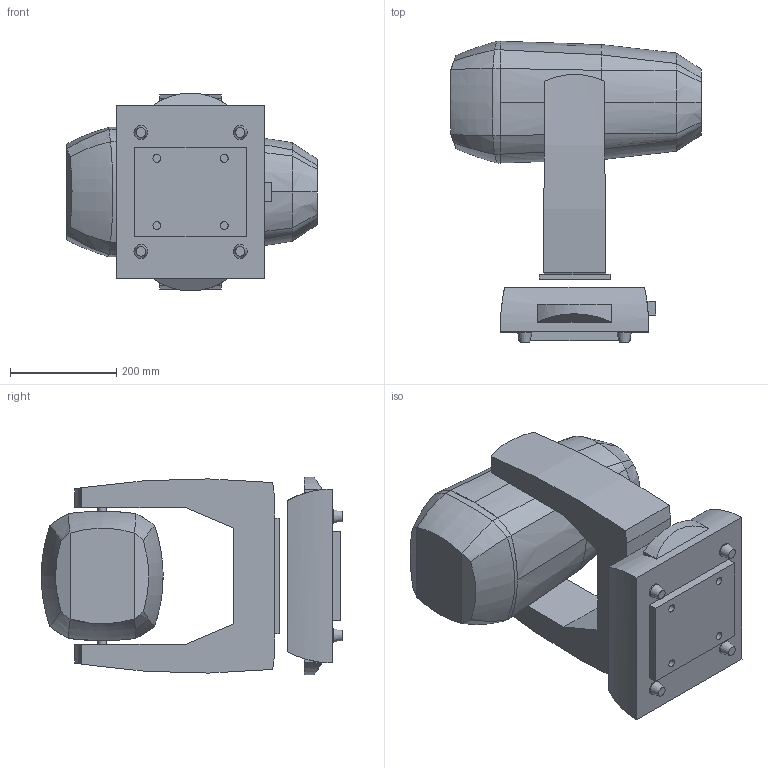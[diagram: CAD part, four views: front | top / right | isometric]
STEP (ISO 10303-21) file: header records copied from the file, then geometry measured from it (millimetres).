
FILE_DESCRIPTION(/* description */ (''),/* implementation_level */ '2;1');
FILE_NAME(/* name */ 'D:/dgooch/Documents/CADENG/PRO/Rogue Outcast 1 Hybrid/90/3D/Rogue Outcast 1 Hybrid_90.step',/* time_stamp */ '2020-01-27T09:30:11-05:00',/* author */ (''),/* organization */ (''),/* preprocessor_version */ 'ST-DEVELOPER v18',/* originating_system */ 'Autodesk Translation Framework v8.12.0.6',/* authorisation */ '');
FILE_SCHEMA (('AUTOMOTIVE_DESIGN { 1 0 10303 214 3 1 1 }'));
Length unit declared in the file: millimetre
Products named in the file (4): Rogue Outcast 1 Hybrid-20200117; Head (1); Base (1); Arm (1)
Assembly tree (3 placements, depth 2):
  Rogue Outcast 1 Hybrid-20200117
    Head (1)
    Base (1)
    Arm (1)
Bounding box: 471.58 x 567.41 x 372.32 mm (x, y, z)
Volume: 33519938.8 mm3; surface area: 1098014.5 mm2
Topology: 3 solids, 3 shells, 128 faces, 322 edges, 210 vertices
Faces by surface type: bspline 50, plane 49, cylinder 21, cone 8
Full cylindrical faces by diameter (mm): 14.903 x4, 16.258 x2, 26.194 x4, 119.599 x1
Entity records: 30328 total; most frequent: CARTESIAN_POINT 27371, ORIENTED_EDGE 644, DIRECTION 494, EDGE_CURVE 322, VERTEX_POINT 210, AXIS2_PLACEMENT_3D 178, EDGE_LOOP 146, LINE 138
